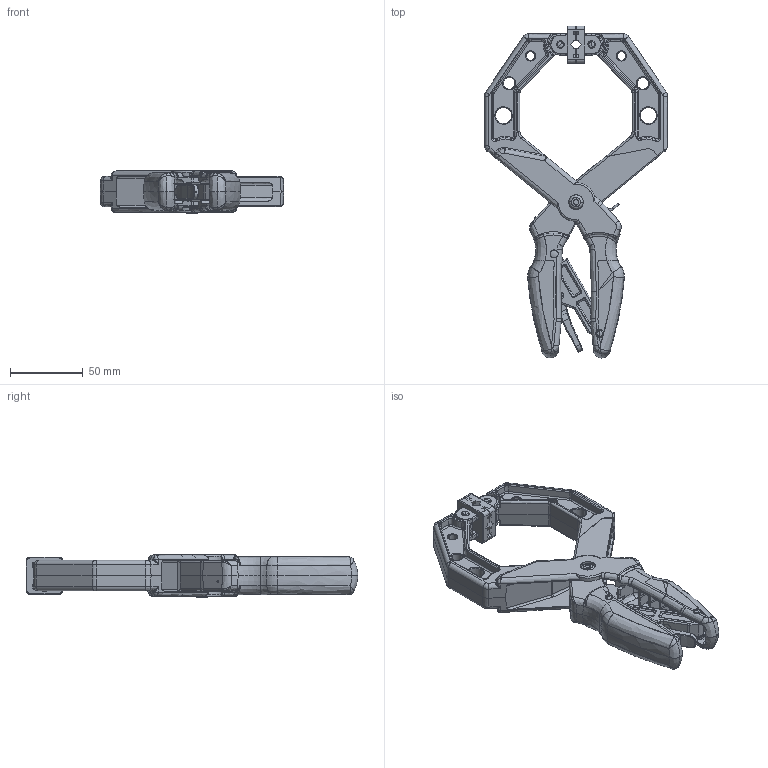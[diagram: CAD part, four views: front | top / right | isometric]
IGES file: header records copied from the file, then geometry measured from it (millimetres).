
Start section: SolidWorks IGES file using analytic representation for surfaces
Global section: file name: C:\Users\user\Desktop\7Y&9Y-IGS\9Y CLAMP-new (1).IGS; native system: SolidWorks 2014; preprocessor: SolidWorks 2014; author: user; date: 190403.111010; units: millimetre
Bounding box: 126.02 x 228.1 x 28.9 mm (x, y, z)
Surface area: 92648.7 mm2 (no closed solid volume)
Topology: 0 solids, 0 shells, 2265 faces, 20087 edges, 20029 vertices
Faces by surface type: bspline 1420, revolution 845
